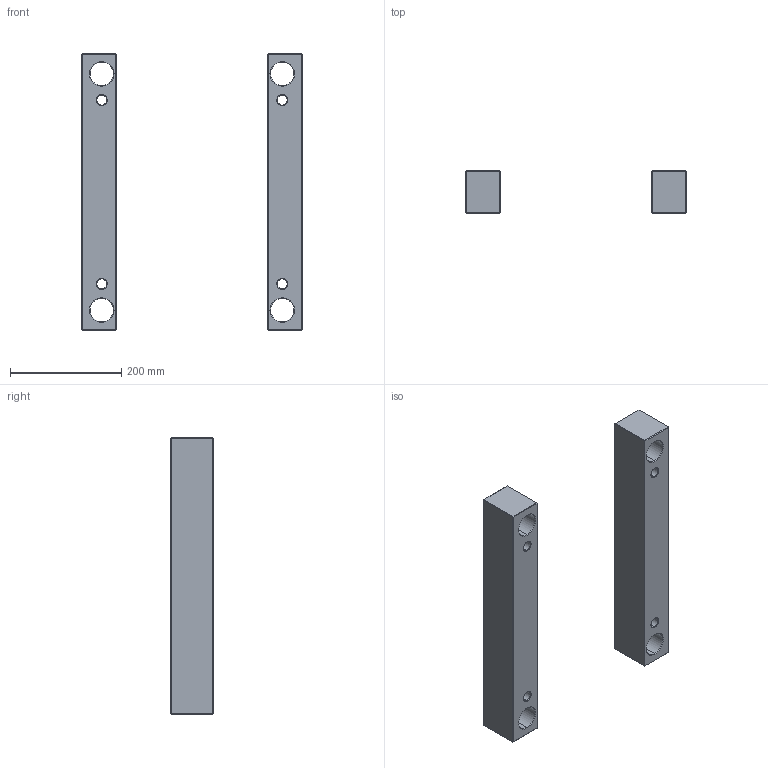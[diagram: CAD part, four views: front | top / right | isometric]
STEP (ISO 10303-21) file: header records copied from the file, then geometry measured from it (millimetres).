
FILE_DESCRIPTION (( 'STEP AP214' ), '1' );
FILE_NAME ('ESP-EU-396X496x76.STEP', '2020-04-16T11:42:06', ( 'August' ), ( '' ), 'SwSTEP 2.0', 'SolidWorks 2018', '' );
FILE_SCHEMA (( 'AUTOMOTIVE_DESIGN' ));
Length unit declared in the file: millimetre
Products named in the file (1): ESP-EU-396X496x76
Bounding box: 396 x 76 x 496 mm (x, y, z)
Volume: 4172474.9 mm3; surface area: 332983.7 mm2
Topology: 2 solids, 2 shells, 100 faces, 208 edges, 112 vertices
Faces by surface type: plane 52, cone 32, cylinder 16
Entity records: 2631 total; most frequent: DIRECTION 474, CARTESIAN_POINT 421, ORIENTED_EDGE 416, EDGE_CURVE 208, AXIS2_PLACEMENT_3D 165, LINE 144, VECTOR 144, EDGE_LOOP 116
